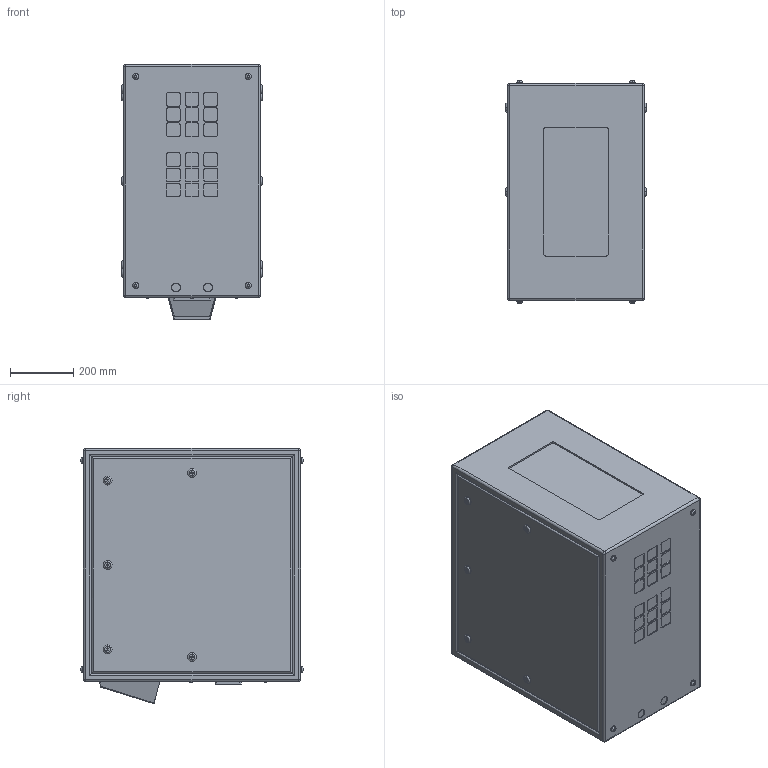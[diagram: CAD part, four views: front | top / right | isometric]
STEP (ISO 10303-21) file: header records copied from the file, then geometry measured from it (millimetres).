
FILE_DESCRIPTION (( 'STEP AP214' ), '1' );
FILE_NAME ('Blizzard 52.050.Px.xx R06.STEP', '2020-04-29T00:23:06', ( '' ), ( '' ), 'SwSTEP 2.0', 'SolidWorks 2018', '' );
FILE_SCHEMA (( 'AUTOMOTIVE_DESIGN' ));
Length unit declared in the file: inch
Products named in the file (1): Blizzard 52.050.Px.xx R06
Bounding box: 444.5 x 702.06 x 806.2 mm (x, y, z)
Volume: 218095073 mm3; surface area: 2550054.9 mm2
Topology: 1 solids, 5 shells, 614 faces, 1447 edges, 928 vertices
Faces by surface type: plane 331, cylinder 225, torus 48, sphere 10
Entity records: 21467 total; most frequent: DIRECTION 3159, CARTESIAN_POINT 3042, ORIENTED_EDGE 2878, EDGE_CURVE 1439, AXIS2_PLACEMENT_3D 1125, VERTEX_POINT 928, VECTOR 909, LINE 909
